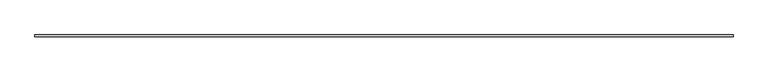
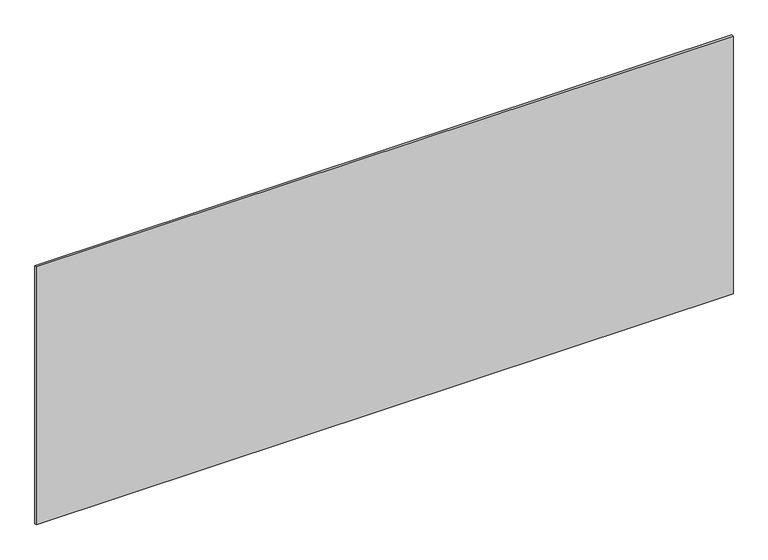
"""IFC4 building model written with IfcOpenShell, lengths in millimetres: plate geometry, システム パネル : 標準."""

from ifc_helpers import new_model, si_unit, origin, origin_with_axes, place, context, project, spatial, polyline, outline, extrude, source, transform, mapped, element, save


def plate_1e6d37a2(model_context):
    return source(origin(), model_context, "Body", "SweptSolid", [
        extrude(outline(polyline([(1697.5, -5.0), (-1697.5, -5.0), (-1697.5, 5.0), (1697.5, 5.0), (1697.5, -5.0)])), origin_with_axes(), (0.0, 0.0, 1.0), 1327.5187473),
    ])


if __name__ == "__main__":
    model = new_model("IFC4")
    model_context = context("Model", 3, world=origin())
    ifc_project = project(units=[si_unit("LENGTHUNIT", "METRE", prefix="MILLI")], contexts=[model_context])
    site = spatial("IfcSite", under=ifc_project)
    building = spatial("IfcBuilding", under=site)
    placement = place(None, origin())
    plate_shape = plate_1e6d37a2(model_context)
    element("IfcPlate", 1, ObjectType="システム パネル : 標準", at=placement, inside=building, context=model_context, shape_type="MappedRepresentation", body=[
        mapped(plate_shape, transform((0.0, 0.0, 0.0), x_axis=(1.0, 0.0, 0.0), y_axis=(0.0, 1.0, 0.0), z_axis=(0.0, 0.0, 1.0))),
    ])
    save(model, "model.ifc")
